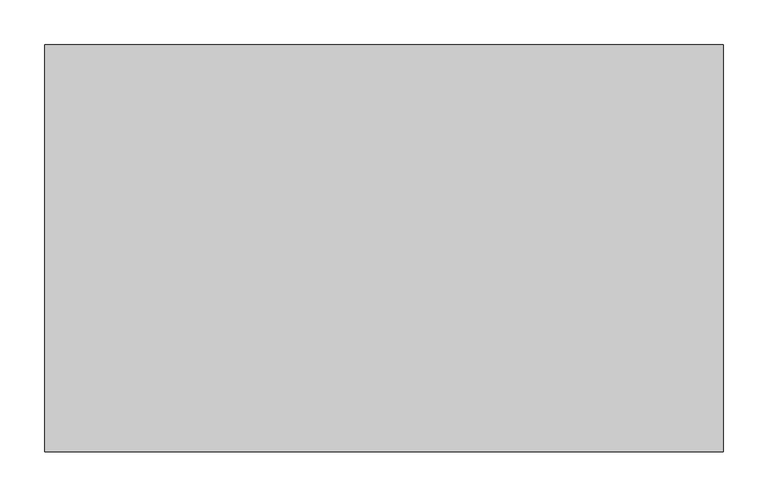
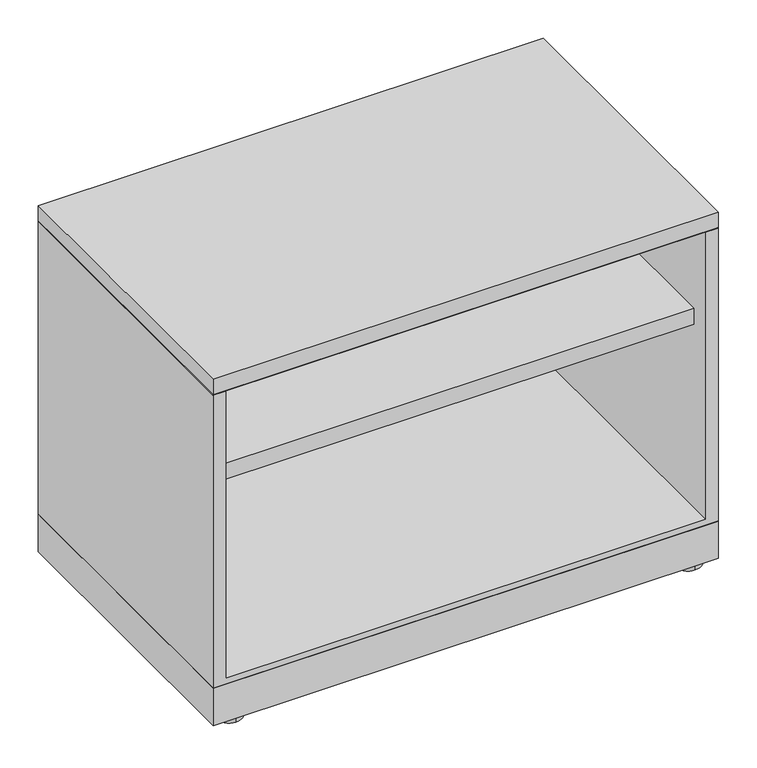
"""IFC4 building model written with IfcOpenShell, lengths in millimetres: furniture geometry, Steelcase - Universal Storage - Lateral File - 1.5 High - Flush Steel : Open/Open - 18D x 30W."""

from ifc_helpers import new_model, si_unit, point, frame, frame_2d, origin, origin_with_axes, place, context, project, spatial, polyline, circle_curve, trimmed, segment, composite_curve, outline, extrude, faceted_brep, source, transform, mapped, element, save


def furniture_1a4c50db(model_context):
    return source(origin(), model_context, "Body", "SolidModel", [
        extrude(outline(polyline([(762.0, 457.2), (762.0, 0.0), (0.0, 0.0), (0.0, 457.2), (762.0, 457.2)])), frame((0.0, 0.0, 6.3500002), z_axis=(0.0, 0.0, 1.0), x_axis=(1.0, 0.0, 0.0)), (0.0, 0.0, 1.0), 59.6899998),
        extrude(outline(composite_curve([segment(trimmed(circle_curve(frame_2d((727.3290058, 434.8633666)), 20.32), [point((727.3290058, 414.5433666))], [point((727.3290058, 455.1833666))], False, "CARTESIAN"), True, "CONTINUOUS"), segment(trimmed(circle_curve(frame_2d((727.3290058, 434.8633666)), 20.32), [point((727.3290058, 455.1833666))], [point((727.3290058, 414.5433666))], False, "CARTESIAN"), True, "CONTINUOUS")], self_intersect=False)), origin_with_axes(), (0.0, 0.0, 1.0), 6.3500002),
        extrude(outline(composite_curve([segment(trimmed(circle_curve(frame_2d((727.3290058, 20.7491455)), 20.32), [point((727.3290058, 0.4291455))], [point((727.3290058, 41.0691455))], False, "CARTESIAN"), True, "CONTINUOUS"), segment(trimmed(circle_curve(frame_2d((727.3290058, 20.7491455)), 20.32), [point((727.3290058, 41.0691455))], [point((727.3290058, 0.4291455))], False, "CARTESIAN"), True, "CONTINUOUS")], self_intersect=False)), origin_with_axes(), (0.0, 0.0, 1.0), 6.3500002),
        extrude(outline(composite_curve([segment(trimmed(circle_curve(frame_2d((34.29, 434.8633666)), 20.32), [point((34.29, 455.1833666))], [point((34.29, 414.5433666))], False, "CARTESIAN"), True, "CONTINUOUS"), segment(trimmed(circle_curve(frame_2d((34.29, 434.8633666)), 20.32), [point((34.29, 414.5433666))], [point((34.29, 455.1833666))], False, "CARTESIAN"), True, "CONTINUOUS")], self_intersect=False)), origin_with_axes(), (0.0, 0.0, 1.0), 6.3500002),
        extrude(outline(composite_curve([segment(trimmed(circle_curve(frame_2d((34.29, 20.7491455)), 20.32), [point((34.29, 41.0691455))], [point((34.29, 0.4291455))], False, "CARTESIAN"), True, "CONTINUOUS"), segment(trimmed(circle_curve(frame_2d((34.29, 20.7491455)), 20.32), [point((34.29, 0.4291455))], [point((34.29, 41.0691455))], False, "CARTESIAN"), True, "CONTINUOUS")], self_intersect=False)), origin_with_axes(), (0.0, 0.0, 1.0), 6.3500002),
        extrude(outline(polyline([(437.7944128, 396.7988176), (437.7944128, 410.7687861), (440.969412, 410.7687861), (440.969412, 371.5257963), (26.822418, 371.5257963), (26.822418, 396.7988176), (437.7944128, 396.7988176)])), frame((22.0472, 0.0, 0.0), z_axis=(1.0, 0.0, 0.0), x_axis=(0.0, 1.0, 0.0)), (0.0, 0.0, 1.0), 717.9056),
        extrude(outline(polyline([(1.45e-05, 534.0350121), (457.2, 534.0350121), (456.4379879, 533.273), (0.7620266, 533.273), (1.45e-05, 534.0350121)])), frame((0.0, 0.0, 0.0), z_axis=(1.0, 0.0, 0.0), x_axis=(0.0, 1.0, 0.0)), (0.0, 0.0, 1.0), 762.0),
        extrude(outline(polyline([(762.0, 457.2), (762.0, 0.0), (0.0, 0.0), (0.0, 457.2), (762.0, 457.2)])), frame((0.0, 0.0, 534.0350121), z_axis=(0.0, 0.0, 1.0), x_axis=(1.0, 0.0, 0.0)), (0.0, 0.0, 1.0), 24.6379729),
        faceted_brep([(762.0, 0.0, 66.04), (762.0, 457.2, 66.04), (762.0, 457.2, 533.273), (762.0, 0.0, 533.273), (0.0, 0.0, 533.273), (0.0, 457.2, 533.273), (0.0, 457.2, 66.04), (0.0, 0.0, 66.04), (742.95, 0.0, 533.273), (742.95, 0.0, 75.1586), (19.05, 0.0, 75.1586), (19.05, 0.0, 533.273), (19.05, 454.0249999, 533.273), (742.95, 454.0249999, 533.273), (19.05, 454.0249999, 75.1586), (742.95, 454.0249999, 75.1586)], [[[0, 1, 2, 3]], [[4, 5, 6, 7]], [[0, 3, 8, 9, 10, 11, 4, 7]], [[2, 1, 6, 5]], [[3, 2, 5, 4, 11, 12, 13, 8]], [[12, 14, 15, 13]], [[14, 12, 11, 10]], [[13, 15, 9, 8]], [[1, 0, 7, 6]], [[10, 9, 15, 14]]]),
    ])


if __name__ == "__main__":
    model = new_model("IFC4")
    model_context = context("Model", 3, world=origin())
    ifc_project = project(units=[si_unit("LENGTHUNIT", "METRE", prefix="MILLI")], contexts=[model_context])
    site = spatial("IfcSite", under=ifc_project)
    building = spatial("IfcBuilding", under=site)
    placement = place(None, origin())
    furniture_shape = furniture_1a4c50db(model_context)
    element("IfcFurniture", 1, ObjectType="Steelcase - Universal Storage - Lateral File - 1.5 High - Flush Steel : Open/Open - 18D x 30W", at=placement, inside=building, context=model_context, shape_type="MappedRepresentation", body=[
        mapped(furniture_shape, transform((0.0, 0.0, 0.0), x_axis=(1.0, 0.0, 0.0), y_axis=(0.0, 1.0, 0.0), z_axis=(0.0, 0.0, 1.0))),
    ])
    save(model, "model.ifc")
